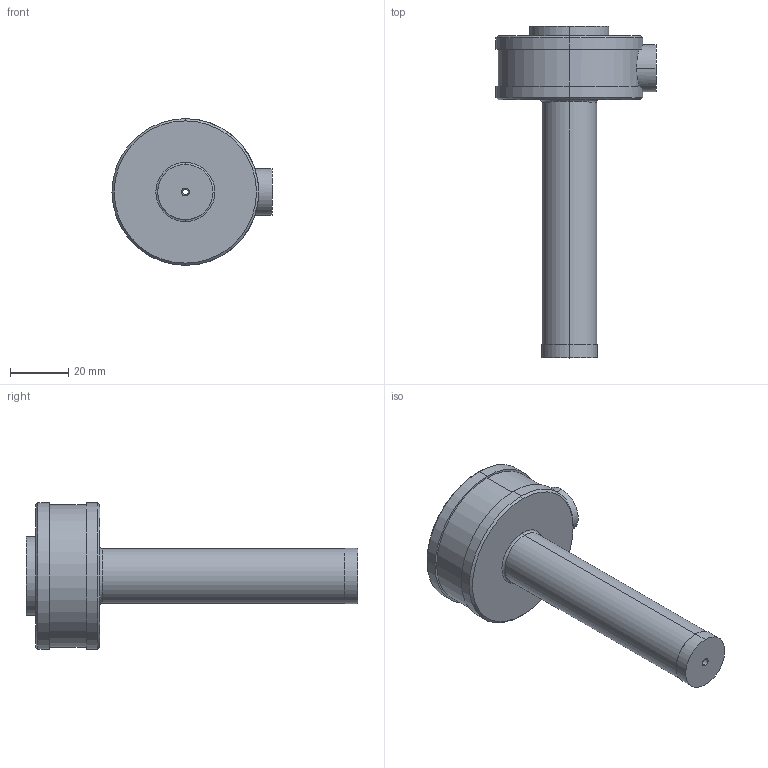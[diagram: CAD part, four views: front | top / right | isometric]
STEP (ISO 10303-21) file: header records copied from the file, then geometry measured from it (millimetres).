
FILE_DESCRIPTION (( 'STEP AP203' ), '1' );
FILE_NAME ('SB030032.STEP', '2009-05-05T18:25:40', ( 'Frank J. Eigler' ), ( 'DME' ), 'SwSTEP 2.0', 'SolidWorks 2009', '' );
FILE_SCHEMA (( 'CONFIG_CONTROL_DESIGN' ));
Length unit declared in the file: inch
Products named in the file (1): SB030032
Bounding box: 55.12 x 114.3 x 50.55 mm (x, y, z)
Volume: 68230.2 mm3; surface area: 14977.1 mm2
Topology: 1 solids, 1 shells, 37 faces, 92 edges, 58 vertices
Faces by surface type: cylinder 17, plane 8, cone 6, sphere 4, torus 2
Entity records: 1277 total; most frequent: CARTESIAN_POINT 278, DIRECTION 218, ORIENTED_EDGE 180, AXIS2_PLACEMENT_3D 96, EDGE_CURVE 90, VERTEX_POINT 58, CIRCLE 58, EDGE_LOOP 42
